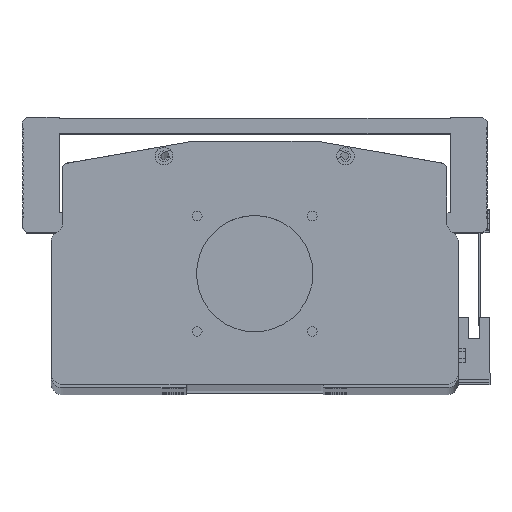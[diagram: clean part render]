
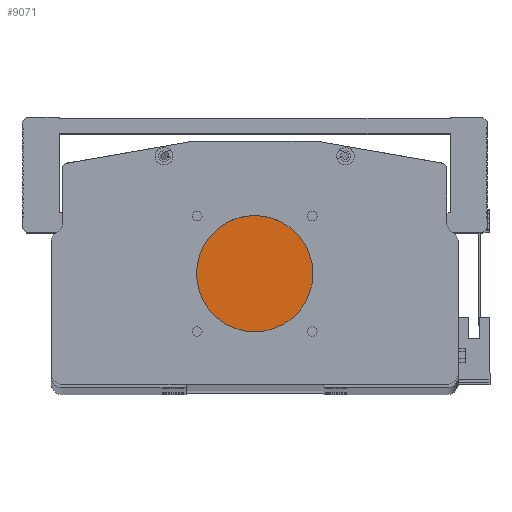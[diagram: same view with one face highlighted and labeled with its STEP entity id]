
A CAD part, top view. The second image highlights one B-rep face of the part: STEP entity #9071.
In plain terms, the highlighted planar face has unit normal (0, 0, 1).
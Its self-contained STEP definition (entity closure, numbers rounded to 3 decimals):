
#63 = PLANE ( 'NONE',  #16095 ) ;
#125 = DIRECTION ( 'NONE',  ( 1., 0., 0. ) ) ;
#587 = VERTEX_POINT ( 'NONE', #902 ) ;
#801 = CARTESIAN_POINT ( 'NONE',  ( 87.5, 47.5, 0. ) ) ;
#902 = CARTESIAN_POINT ( 'NONE',  ( 112.5, 47.5, 0. ) ) ;
#2532 = AXIS2_PLACEMENT_3D ( 'NONE', #801, #21414, #3784 ) ;
#3784 = DIRECTION ( 'NONE',  ( 1., 0., 0. ) ) ;
#6027 = CARTESIAN_POINT ( 'NONE',  ( 0., 0., 0. ) ) ;
#7593 = ORIENTED_EDGE ( 'NONE', *, *, #22703, .T. ) ;
#8441 = VERTEX_POINT ( 'NONE', #14774 ) ;
#9020 = DIRECTION ( 'NONE',  ( 0., 0., 1. ) ) ;
#9071 = ADVANCED_FACE ( 'NONE', ( #37991 ), #63, .T. ) ;
#14010 = CIRCLE ( 'NONE', #33446, 25. ) ;
#14774 = CARTESIAN_POINT ( 'NONE',  ( 62.5, 47.5, 0. ) ) ;
#15472 = EDGE_LOOP ( 'NONE', ( #7593, #16695 ) ) ;
#16095 = AXIS2_PLACEMENT_3D ( 'NONE', #6027, #9020, #29430 ) ;
#16695 = ORIENTED_EDGE ( 'NONE', *, *, #29118, .T. ) ;
#17870 = DIRECTION ( 'NONE',  ( 0., 0., 1. ) ) ;
#21414 = DIRECTION ( 'NONE',  ( 0., 0., 1. ) ) ;
#22703 = EDGE_CURVE ( 'NONE', #8441, #587, #14010, .T. ) ;
#29118 = EDGE_CURVE ( 'NONE', #587, #8441, #37179, .T. ) ;
#29430 = DIRECTION ( 'NONE',  ( 1., 0., 0. ) ) ;
#33446 = AXIS2_PLACEMENT_3D ( 'NONE', #35201, #17870, #125 ) ;
#35201 = CARTESIAN_POINT ( 'NONE',  ( 87.5, 47.5, 0. ) ) ;
#37179 = CIRCLE ( 'NONE', #2532, 25. ) ;
#37991 = FACE_OUTER_BOUND ( 'NONE', #15472, .T. ) ;
